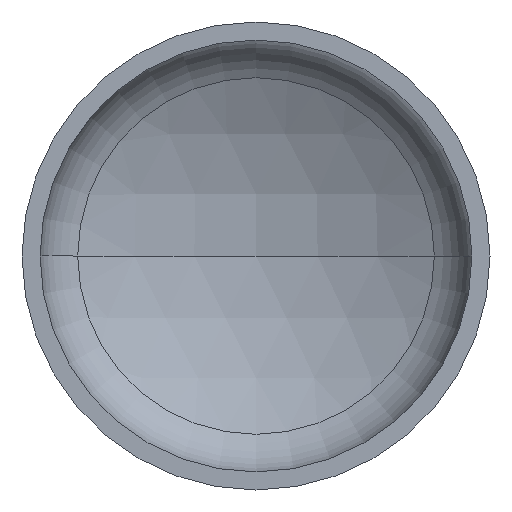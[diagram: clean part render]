
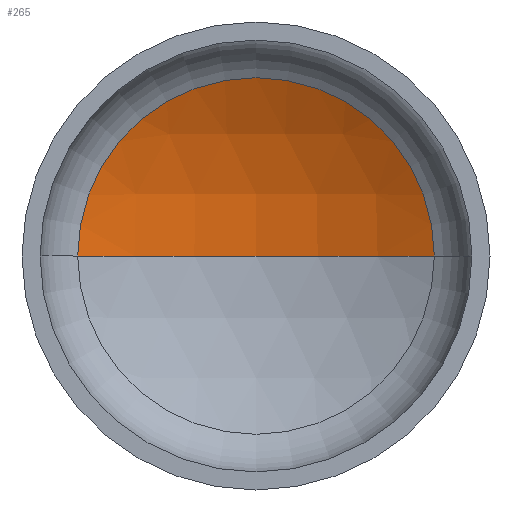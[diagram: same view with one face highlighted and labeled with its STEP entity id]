
A CAD part, front view. The second image highlights one B-rep face of the part: STEP entity #265.
In plain terms, the highlighted spherical face has radius 2240 mm.
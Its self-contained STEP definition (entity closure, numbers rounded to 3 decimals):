
#5 = EDGE_LOOP ( 'NONE', ( #282, #86, #40 ) ) ;
#13 = AXIS2_PLACEMENT_3D ( 'NONE', #167, #390, #274 ) ;
#18 = CIRCLE ( 'NONE', #34, 2240. ) ;
#32 = AXIS2_PLACEMENT_3D ( 'NONE', #141, #143, #145 ) ;
#34 = AXIS2_PLACEMENT_3D ( 'NONE', #157, #162, #159 ) ;
#40 = ORIENTED_EDGE ( 'NONE', *, *, #348, .T. ) ;
#47 = AXIS2_PLACEMENT_3D ( 'NONE', #309, #256, #197 ) ;
#86 = ORIENTED_EDGE ( 'NONE', *, *, #322, .T. ) ;
#107 = VERTEX_POINT ( 'NONE', #302 ) ;
#115 = VERTEX_POINT ( 'NONE', #328 ) ;
#124 = VERTEX_POINT ( 'NONE', #285 ) ;
#132 = CIRCLE ( 'NONE', #32, 2240. ) ;
#141 = CARTESIAN_POINT ( 'NONE',  ( 0., -1516.558, 0. ) ) ;
#143 = DIRECTION ( 'NONE',  ( 0., 0., -1. ) ) ;
#145 = DIRECTION ( 'NONE',  ( -1., 0., 0. ) ) ;
#157 = CARTESIAN_POINT ( 'NONE',  ( 0., -1516.558, 0. ) ) ;
#159 = DIRECTION ( 'NONE',  ( 1., 0., 0. ) ) ;
#162 = DIRECTION ( 'NONE',  ( 0., 0., 1. ) ) ;
#167 = CARTESIAN_POINT ( 'NONE',  ( 0., 453.105, 0. ) ) ;
#187 = SPHERICAL_SURFACE ( 'NONE', #47, 2240. ) ;
#197 = DIRECTION ( 'NONE',  ( -1., 0., 0. ) ) ;
#256 = DIRECTION ( 'NONE',  ( 0., 0., -1. ) ) ;
#265 = ADVANCED_FACE ( 'NONE', ( #301 ), #187, .F. ) ;
#274 = DIRECTION ( 'NONE',  ( 1., 0., 0. ) ) ;
#282 = ORIENTED_EDGE ( 'NONE', *, *, #333, .F. ) ;
#285 = CARTESIAN_POINT ( 'NONE',  ( -1066.785, 453.105, 0. ) ) ;
#301 = FACE_OUTER_BOUND ( 'NONE', #5, .T. ) ;
#302 = CARTESIAN_POINT ( 'NONE',  ( 0., 723.442, 0. ) ) ;
#309 = CARTESIAN_POINT ( 'NONE',  ( 0., -1516.558, 0. ) ) ;
#322 = EDGE_CURVE ( 'NONE', #107, #115, #132, .T. ) ;
#328 = CARTESIAN_POINT ( 'NONE',  ( 1066.785, 453.105, 0. ) ) ;
#333 = EDGE_CURVE ( 'NONE', #107, #124, #18, .T. ) ;
#348 = EDGE_CURVE ( 'NONE', #115, #124, #371, .T. ) ;
#371 = CIRCLE ( 'NONE', #13, 1066.785 ) ;
#390 = DIRECTION ( 'NONE',  ( 0., -1., 0. ) ) ;
